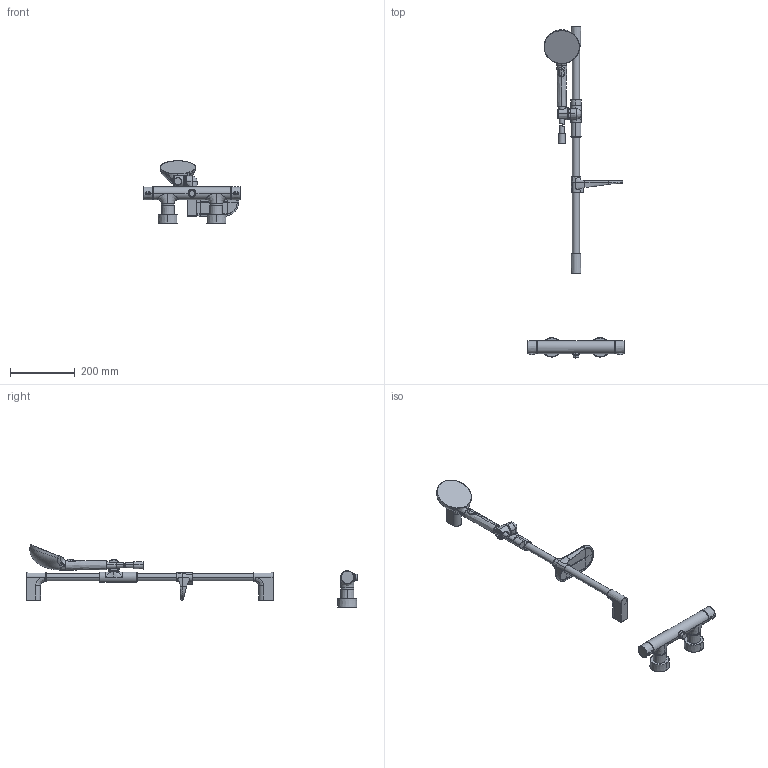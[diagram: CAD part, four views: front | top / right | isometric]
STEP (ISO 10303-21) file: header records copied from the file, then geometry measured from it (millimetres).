
FILE_DESCRIPTION (( 'STEP AP203' ), '1' );
FILE_NAME ('48130421(2024).STEP', '2024-04-10T08:39:28', ( '' ), ( '' ), 'SwSTEP 2.0', 'SolidWorks 2016', '' );
FILE_SCHEMA (( 'CONFIG_CONTROL_DESIGN' ));
Length unit declared in the file: millimetre
Products named in the file (1): 48130421(2024)
Bounding box: 299.88 x 1029.1 x 193.47 mm (x, y, z)
Volume: 1878532.1 mm3; surface area: 280782.5 mm2
Topology: 21 solids, 21 shells, 541 faces, 1306 edges, 800 vertices
Faces by surface type: bspline 326, plane 72, cylinder 61, cone 45, sphere 22, torus 15
Entity records: 64328 total; most frequent: CARTESIAN_POINT 53980, ORIENTED_EDGE 2586, DIRECTION 1537, EDGE_CURVE 1293, VERTEX_POINT 800, AXIS2_PLACEMENT_3D 677, EDGE_LOOP 549, B_SPLINE_CURVE_WITH_KNOTS 542
